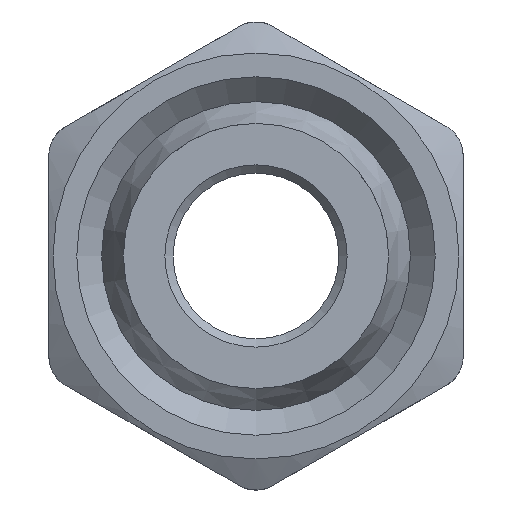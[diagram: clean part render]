
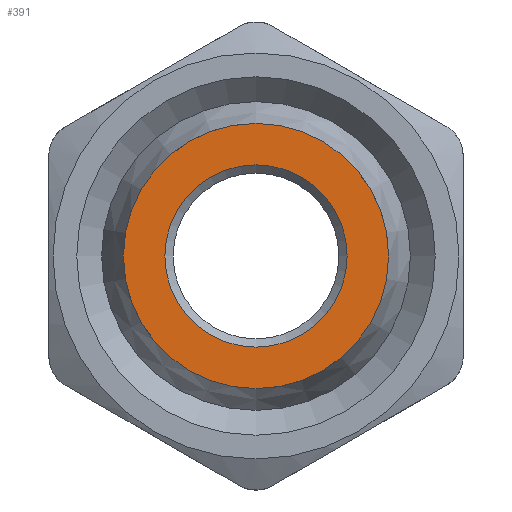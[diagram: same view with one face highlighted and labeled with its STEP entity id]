
A CAD part, front view. The second image highlights one B-rep face of the part: STEP entity #391.
In plain terms, the highlighted planar face has unit normal (0, -1, 0).
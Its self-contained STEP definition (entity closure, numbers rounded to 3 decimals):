
#391=ADVANCED_FACE('',(#686,#688),#690,.F.);
#686=FACE_BOUND('',#687,.T.);
#687=EDGE_LOOP('',(#1342));
#688=FACE_BOUND('',#689,.T.);
#689=EDGE_LOOP('',(#1343));
#690=PLANE('',#691);
#691=AXIS2_PLACEMENT_3D('',#692,#693,#694);
#692=CARTESIAN_POINT('',(0.,0.,0.));
#693=DIRECTION('',(0.,1.,0.));
#694=DIRECTION('',(-1.,0.,0.));
#1342=ORIENTED_EDGE('',*,*,#1530,.F.);
#1343=ORIENTED_EDGE('',*,*,#1531,.T.);
#1530=EDGE_CURVE('',#1692,#1692,#1693,.T.);
#1531=EDGE_CURVE('',#1694,#1694,#1695,.F.);
#1692=VERTEX_POINT('',#3115);
#1693=CIRCLE('',#3116,8.);
#1694=VERTEX_POINT('',#3120);
#1695=CIRCLE('',#3121,5.5);
#3115=CARTESIAN_POINT('',(-8.,0.,0.));
#3116=AXIS2_PLACEMENT_3D('',#3117,#3118,#3119);
#3117=CARTESIAN_POINT('',(0.,0.,0.));
#3118=DIRECTION('',(0.,1.,0.));
#3119=DIRECTION('',(-1.,0.,0.));
#3120=CARTESIAN_POINT('',(5.5,0.,0.));
#3121=AXIS2_PLACEMENT_3D('',#3122,#3123,#3124);
#3122=CARTESIAN_POINT('',(0.,0.,0.));
#3123=DIRECTION('',(0.,-1.,0.));
#3124=DIRECTION('',(1.,0.,0.));
